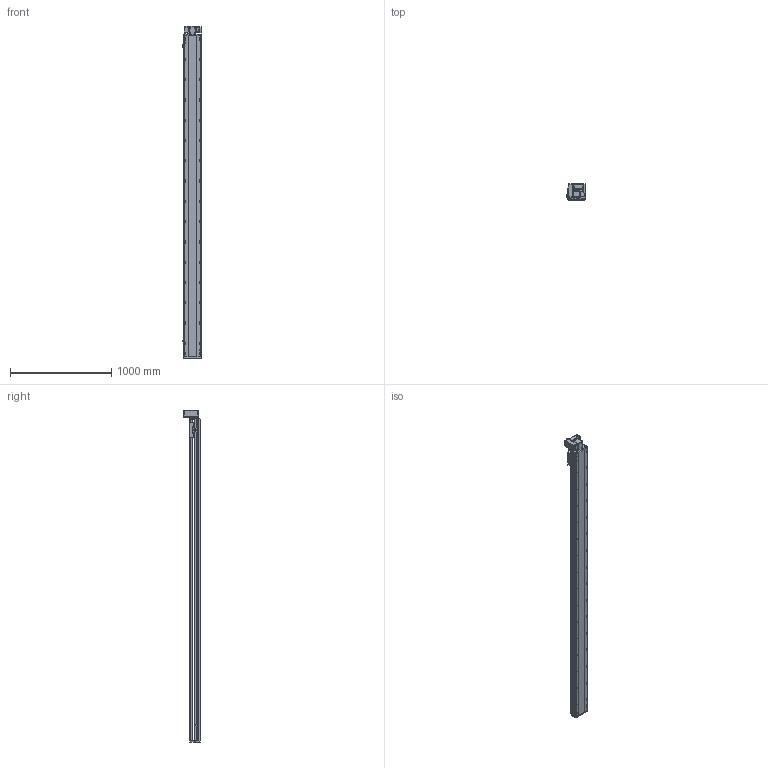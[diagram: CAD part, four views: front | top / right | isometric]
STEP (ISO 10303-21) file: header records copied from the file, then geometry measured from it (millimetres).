
FILE_DESCRIPTION (( 'STEP AP214' ), '1' );
FILE_NAME ('RTB17S-XX-2900-LW-M40-C4.STEP', '2025-12-11T07:19:57', ( '' ), ( '' ), 'SwSTEP 2.0', 'SolidWorks 2018', '' );
FILE_SCHEMA (( 'AUTOMOTIVE_DESIGN' ));
Length unit declared in the file: millimetre
Products named in the file (14): OMRON EE-SX672 传感器^RTB17S-XX-XX-LW-M40-C4; RTB14-L-005P--轴承塑胶压盖^RTB17S-LW-皮带座装配-400W_RTB17S-XX-XX-LW-M40-C4; 400W侜督萇儂^RTB17S-XX-XX-LW-M40-C4; RTB17S-L-004佪裝蹟譫蟀諉釱^RTB17S-XX-XX-LW-M40-C4; RTB17S-L-001耜醱啣^RTB17S-XX-XX-LW-M40-C4; RTB17S-L-007奻裔^RTB17S-XX-XX-LW-M40-C4; RTB14-L-017P^RTB17S-LW-々湍釱蚾饜-400W_RTB17S-XX-XX-LW-M40-C4; RTB14-L-018P^RTB17S-LW-々湍釱蚾饜-400W_RTB17S-XX-XX-LW-M40-C4; RTB14-L-008-M20--萇儂啣^RTB17S-LW-々湍釱蚾饜-400W_RTB17S-XX-XX-LW-M40-C4; RTB17-R-011菁釱^RTB17S-XX-XX-LW-M40-C4; RTB17S-XX-2900-LW-M40-C4; RTB17S-LW-々湍釱蚾饜-400W^RTB17S-XX-XX-LW-M40-C4; RTB17S-L-014-T20--々湍釱^RTB17S-LW-々湍釱蚾饜-400W_RTB17S-XX-XX-LW-M40-C4; RTH13-BL-012覜茼え俋离^RTB17S-XX-XX-LW-M40-C4
Assembly tree (16 placements, depth 3):
  RTB17S-XX-2900-LW-M40-C4
    RTB17-R-011菁釱^RTB17S-XX-XX-LW-M40-C4
    RTB17S-L-007奻裔^RTB17S-XX-XX-LW-M40-C4
    OMRON EE-SX672 传感器^RTB17S-XX-XX-LW-M40-C4  x3
    RTB17S-L-001耜醱啣^RTB17S-XX-XX-LW-M40-C4
    400W侜督萇儂^RTB17S-XX-XX-LW-M40-C4
    RTB17S-L-004佪裝蹟譫蟀諉釱^RTB17S-XX-XX-LW-M40-C4
    RTH13-BL-012覜茼え俋离^RTB17S-XX-XX-LW-M40-C4
    RTB17S-LW-々湍釱蚾饜-400W^RTB17S-XX-XX-LW-M40-C4
      RTB17S-L-014-T20--々湍釱^RTB17S-LW-々湍釱蚾饜-400W_RTB17S-XX-XX-LW-M40-C4
      RTB14-L-005P--轴承塑胶压盖^RTB17S-LW-皮带座装配-400W_RTB17S-XX-XX-LW-M40-C4
      RTB14-L-008-M20--萇儂啣^RTB17S-LW-々湍釱蚾饜-400W_RTB17S-XX-XX-LW-M40-C4
      RTB14-L-017P^RTB17S-LW-々湍釱蚾饜-400W_RTB17S-XX-XX-LW-M40-C4  x2
      RTB14-L-018P^RTB17S-LW-々湍釱蚾饜-400W_RTB17S-XX-XX-LW-M40-C4
Bounding box: 186 x 160.5 x 3272.5 mm (x, y, z)
Volume: 27866063.4 mm3; surface area: 3188617.8 mm2
Topology: 15 solids, 15 shells, 2365 faces, 6627 edges, 4329 vertices
Faces by surface type: plane 1088, cylinder 829, bspline 301, cone 139, torus 8
Entity records: 70313 total; most frequent: CARTESIAN_POINT 20032, ORIENTED_EDGE 10098, DIRECTION 9296, EDGE_CURVE 5049, VERTEX_POINT 3317, AXIS2_PLACEMENT_3D 3247, LINE 2802, VECTOR 2802
